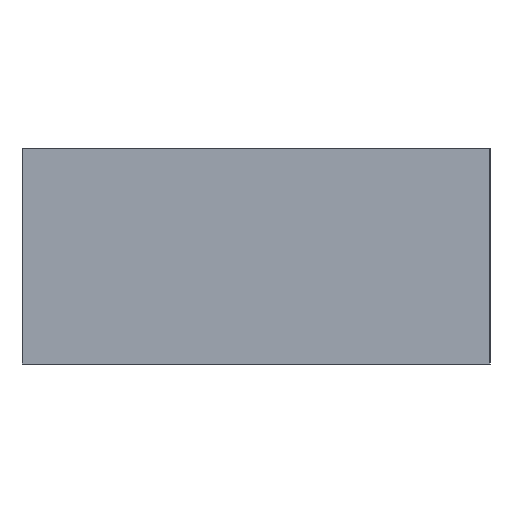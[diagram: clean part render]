
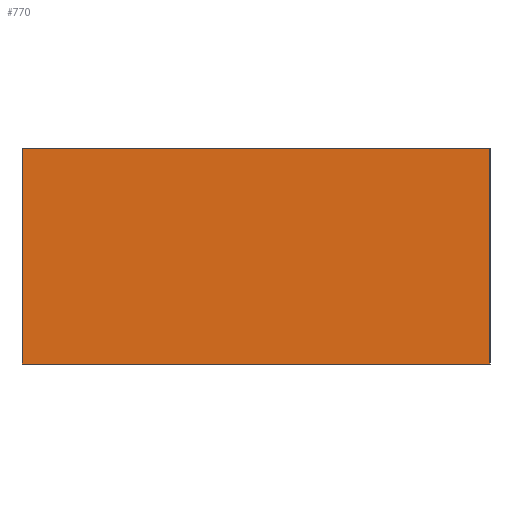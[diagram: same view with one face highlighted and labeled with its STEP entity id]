
A CAD part, left-side view. The second image highlights one B-rep face of the part: STEP entity #770.
In plain terms, the highlighted planar face has unit normal (-1, 0, 0).
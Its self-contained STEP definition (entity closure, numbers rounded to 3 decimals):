
#175=FACE_OUTER_BOUND('',#259,.T.);
#259=EDGE_LOOP('',(#614,#615,#616,#617));
#293=LINE('',#1265,#319);
#301=LINE('',#1280,#327);
#302=LINE('',#1283,#328);
#303=LINE('',#1284,#329);
#319=VECTOR('',#1051,65.);
#327=VECTOR('',#1063,30.);
#328=VECTOR('',#1066,65.);
#329=VECTOR('',#1067,30.);
#396=VERTEX_POINT('',#1263);
#397=VERTEX_POINT('',#1264);
#402=VERTEX_POINT('',#1278);
#403=VERTEX_POINT('',#1282);
#471=EDGE_CURVE('',#396,#397,#293,.T.);
#479=EDGE_CURVE('',#402,#397,#301,.T.);
#480=EDGE_CURVE('',#402,#403,#302,.T.);
#481=EDGE_CURVE('',#396,#403,#303,.T.);
#614=ORIENTED_EDGE('',*,*,#480,.T.);
#615=ORIENTED_EDGE('',*,*,#481,.F.);
#616=ORIENTED_EDGE('',*,*,#471,.T.);
#617=ORIENTED_EDGE('',*,*,#479,.F.);
#694=PLANE('',#867);
#770=ADVANCED_FACE('',(#175),#694,.T.);
#867=AXIS2_PLACEMENT_3D('',#1281,#1064,#1065);
#1051=DIRECTION('',(0.,-1.,0.));
#1063=DIRECTION('',(0.,0.,-1.));
#1064=DIRECTION('center_axis',(-1.,0.,0.));
#1065=DIRECTION('ref_axis',(0.,0.,1.));
#1066=DIRECTION('',(0.,1.,0.));
#1067=DIRECTION('',(0.,0.,1.));
#1263=CARTESIAN_POINT('',(0.,0.,-15.));
#1264=CARTESIAN_POINT('',(0.,-65.,-15.));
#1265=CARTESIAN_POINT('',(0.,-65.,-15.));
#1278=CARTESIAN_POINT('',(0.,-65.,15.));
#1280=CARTESIAN_POINT('',(0.,-65.,0.));
#1281=CARTESIAN_POINT('Origin',(0.,-65.,0.));
#1282=CARTESIAN_POINT('',(0.,0.,15.));
#1283=CARTESIAN_POINT('',(0.,-65.,15.));
#1284=CARTESIAN_POINT('',(0.,0.,0.));
